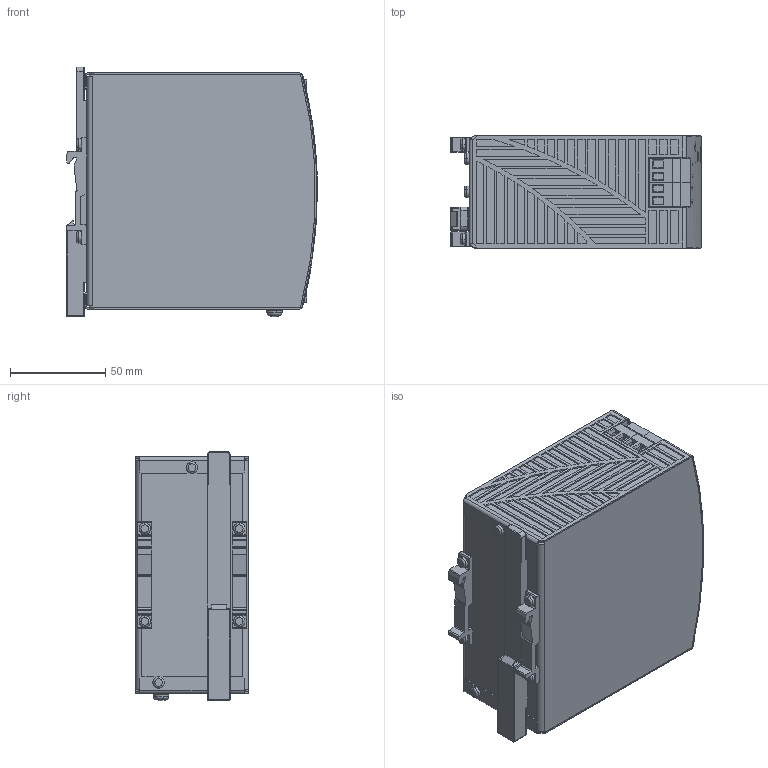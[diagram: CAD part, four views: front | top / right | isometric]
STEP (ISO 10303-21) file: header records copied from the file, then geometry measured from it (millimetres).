
FILE_DESCRIPTION (( 'STEP AP214' ), '1' );
FILE_NAME ('3D_PIC480.241D.STP', '2026-07-28T14:06:35', ( '' ), ( '' ), 'SwSTEP 2.0', 'SolidWorks 2024', '' );
FILE_SCHEMA (( 'AUTOMOTIVE_DESIGN' ));
Length unit declared in the file: millimetre
Products named in the file (15): 1018460_000_BRep_Config; 1018322_000_Feat_Config; 1018357_000_Feat_Config; 1018344_000_Feat_Config; 1041861_000; 1046260_000_EW-444_991_00; 1018315_000_BRep_Config; 3D_PIC480.241D; 1046259_000; 1018360_000_Feat_Config; 1018454_000_BRep_Config; 1018210_000_Feat_Config; 1018355_000_Feat_Config; 1018211_000_BRep_Config; 1018455_000_Feat_Config
Assembly tree (17 placements, depth 2):
  3D_PIC480.241D
    1018211_000_BRep_Config
    1018355_000_Feat_Config
    1018360_000_Feat_Config  x2
    1041861_000  x2
    1018210_000_Feat_Config
    1018460_000_BRep_Config  x2
    1018454_000_BRep_Config
    1018322_000_Feat_Config
    1018357_000_Feat_Config
    1018344_000_Feat_Config
    1018315_000_BRep_Config
    1018455_000_Feat_Config
    1046260_000_EW-444_991_00
    1046259_000
Bounding box: 131.5 x 59 x 130.79 mm (x, y, z)
Volume: 866382.1 mm3; surface area: 188257.1 mm2
Topology: 17 solids, 17 shells, 1254 faces, 3377 edges, 2200 vertices
Faces by surface type: plane 930, cylinder 271, torus 18, cone 18, sphere 9, bspline 8
Entity records: 37292 total; most frequent: CARTESIAN_POINT 6905, ORIENTED_EDGE 5884, DIRECTION 5695, EDGE_CURVE 2942, LINE 2311, VECTOR 2311, VERTEX_POINT 1922, AXIS2_PLACEMENT_3D 1692
